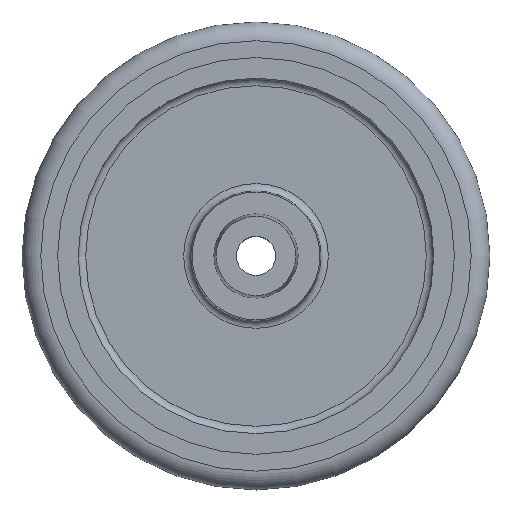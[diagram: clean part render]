
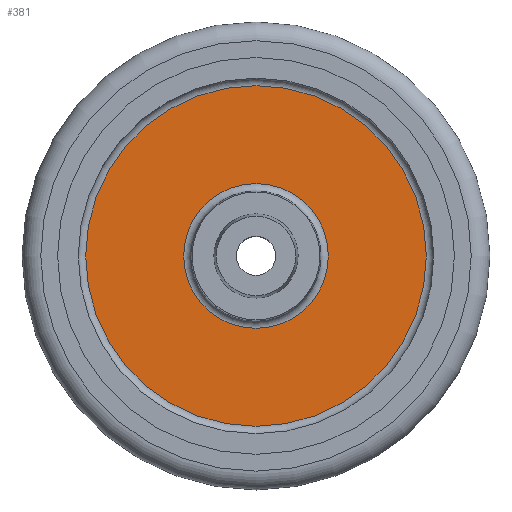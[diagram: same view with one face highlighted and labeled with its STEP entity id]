
A CAD part, top view. The second image highlights one B-rep face of the part: STEP entity #381.
In plain terms, the highlighted planar face has unit normal (0, 0, 1).
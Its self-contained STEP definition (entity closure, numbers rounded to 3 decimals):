
#62=FACE_BOUND('',#135,.T.);
#72=PLANE('',#456);
#106=FACE_OUTER_BOUND('',#134,.T.);
#134=EDGE_LOOP('',(#331));
#135=EDGE_LOOP('',(#332));
#190=CIRCLE('',#441,45.5);
#191=CIRCLE('',#443,19.333);
#220=VERTEX_POINT('',#696);
#221=VERTEX_POINT('',#700);
#255=EDGE_CURVE('',#220,#220,#190,.T.);
#256=EDGE_CURVE('',#221,#221,#191,.T.);
#331=ORIENTED_EDGE('',*,*,#255,.F.);
#332=ORIENTED_EDGE('',*,*,#256,.T.);
#381=ADVANCED_FACE('',(#106,#62),#72,.F.);
#441=AXIS2_PLACEMENT_3D('',#698,#547,#548);
#443=AXIS2_PLACEMENT_3D('',#701,#551,#552);
#456=AXIS2_PLACEMENT_3D('',#723,#580,#581);
#547=DIRECTION('center_axis',(0.,0.,-1.));
#548=DIRECTION('ref_axis',(-1.,0.,0.));
#551=DIRECTION('center_axis',(0.,0.,-1.));
#552=DIRECTION('ref_axis',(-1.,0.,0.));
#580=DIRECTION('center_axis',(0.,0.,-1.));
#581=DIRECTION('ref_axis',(-1.,0.,0.));
#696=CARTESIAN_POINT('',(45.5,0.,4.));
#698=CARTESIAN_POINT('Origin',(0.,0.,4.));
#700=CARTESIAN_POINT('',(19.333,0.,4.));
#701=CARTESIAN_POINT('Origin',(0.,0.,4.));
#723=CARTESIAN_POINT('Origin',(45.5,0.,4.));
